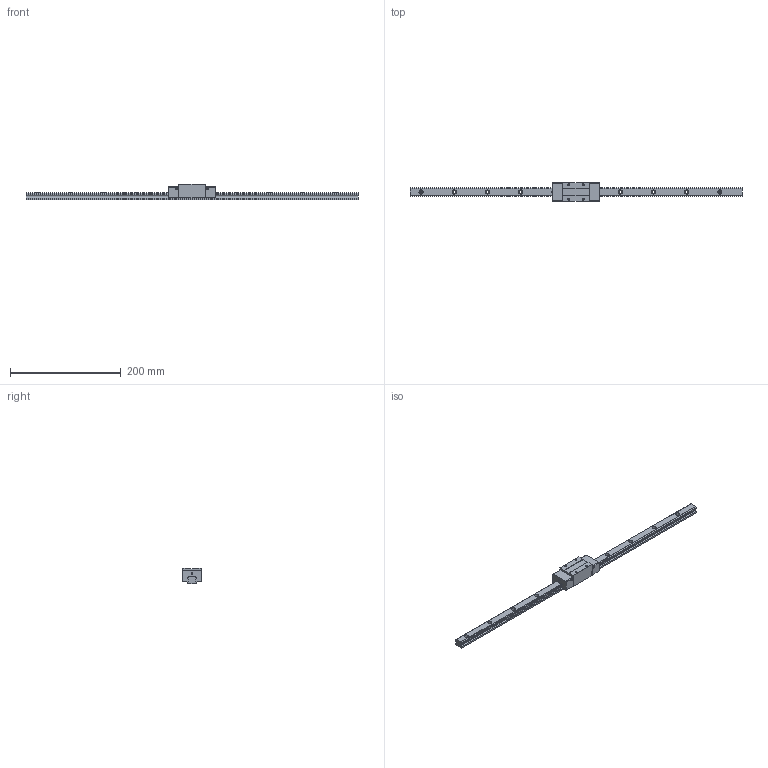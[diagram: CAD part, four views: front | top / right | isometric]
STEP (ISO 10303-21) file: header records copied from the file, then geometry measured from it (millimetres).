
FILE_DESCRIPTION (( 'STEP AP203' ), '1' );
FILE_NAME ('TRH15VL-WZ.STEP', '2024-05-23T02:58:55', ( '' ), ( '' ), 'SwSTEP 2.0', 'SolidWorks 2022', '' );
FILE_SCHEMA (( 'CONFIG_CONTROL_DESIGN' ));
Length unit declared in the file: millimetre
Products named in the file (1): TRH15VL-WZ
Bounding box: 600 x 34 x 28 mm (x, y, z)
Volume: 154213.8 mm3; surface area: 50323.6 mm2
Topology: 2 solids, 2 shells, 200 faces, 520 edges, 336 vertices
Faces by surface type: cylinder 96, plane 88, cone 16
Entity records: 6223 total; most frequent: DIRECTION 1114, CARTESIAN_POINT 1049, ORIENTED_EDGE 1024, EDGE_CURVE 512, AXIS2_PLACEMENT_3D 401, VERTEX_POINT 336, VECTOR 312, LINE 312
